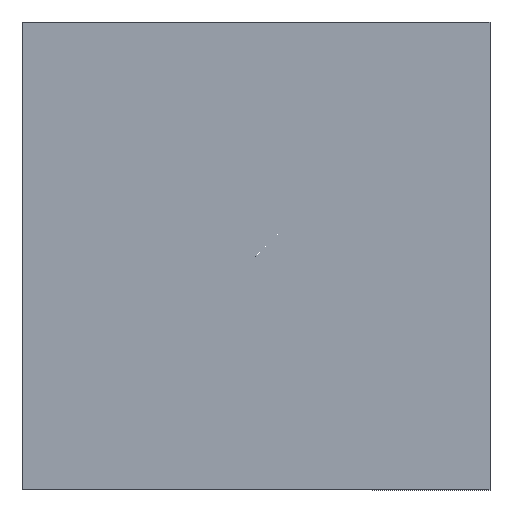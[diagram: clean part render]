
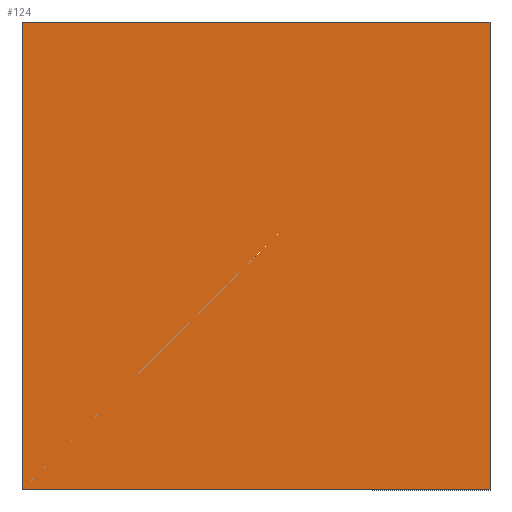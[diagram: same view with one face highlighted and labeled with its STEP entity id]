
A CAD part, front view. The second image highlights one B-rep face of the part: STEP entity #124.
In plain terms, the highlighted planar face has unit normal (0, -1, 0).
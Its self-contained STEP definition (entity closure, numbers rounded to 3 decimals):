
#3 = VECTOR ( 'NONE', #467, 1000. ) ;
#13 = AXIS2_PLACEMENT_3D ( 'NONE', #154, #525, #589 ) ;
#52 = VECTOR ( 'NONE', #487, 1000. ) ;
#58 = PLANE ( 'NONE',  #13 ) ;
#67 = EDGE_CURVE ( 'NONE', #559, #462, #249, .T. ) ;
#110 = LINE ( 'NONE', #324, #52 ) ;
#123 = VECTOR ( 'NONE', #133, 1000. ) ;
#124 = ADVANCED_FACE ( 'NONE', ( #475 ), #58, .T. ) ;
#133 = DIRECTION ( 'NONE',  ( -1., 0., 0. ) ) ;
#154 = CARTESIAN_POINT ( 'NONE',  ( 0., 0., 900. ) ) ;
#200 = LINE ( 'NONE', #322, #585 ) ;
#245 = ORIENTED_EDGE ( 'NONE', *, *, #323, .F. ) ;
#249 = LINE ( 'NONE', #519, #123 ) ;
#263 = EDGE_CURVE ( 'NONE', #462, #438, #200, .T. ) ;
#265 = CARTESIAN_POINT ( 'NONE',  ( 0., 0., 0. ) ) ;
#322 = CARTESIAN_POINT ( 'NONE',  ( -900., 0., 900. ) ) ;
#323 = EDGE_CURVE ( 'NONE', #559, #604, #110, .T. ) ;
#324 = CARTESIAN_POINT ( 'NONE',  ( 0., 0., 900. ) ) ;
#389 = ORIENTED_EDGE ( 'NONE', *, *, #67, .T. ) ;
#404 = CARTESIAN_POINT ( 'NONE',  ( 0., 0., 0. ) ) ;
#408 = CARTESIAN_POINT ( 'NONE',  ( 0., 0., 900. ) ) ;
#438 = VERTEX_POINT ( 'NONE', #512 ) ;
#462 = VERTEX_POINT ( 'NONE', #569 ) ;
#467 = DIRECTION ( 'NONE',  ( -1., 0., 0. ) ) ;
#475 = FACE_OUTER_BOUND ( 'NONE', #503, .T. ) ;
#487 = DIRECTION ( 'NONE',  ( 0., 0., -1. ) ) ;
#498 = EDGE_CURVE ( 'NONE', #604, #438, #626, .T. ) ;
#503 = EDGE_LOOP ( 'NONE', ( #612, #245, #389, #508 ) ) ;
#508 = ORIENTED_EDGE ( 'NONE', *, *, #263, .T. ) ;
#512 = CARTESIAN_POINT ( 'NONE',  ( -900., 0., 0. ) ) ;
#519 = CARTESIAN_POINT ( 'NONE',  ( 0., 0., 900. ) ) ;
#525 = DIRECTION ( 'NONE',  ( 0., -1., 0. ) ) ;
#531 = DIRECTION ( 'NONE',  ( 0., 0., -1. ) ) ;
#559 = VERTEX_POINT ( 'NONE', #408 ) ;
#569 = CARTESIAN_POINT ( 'NONE',  ( -900., 0., 900. ) ) ;
#585 = VECTOR ( 'NONE', #531, 1000. ) ;
#589 = DIRECTION ( 'NONE',  ( 1., 0., 0. ) ) ;
#604 = VERTEX_POINT ( 'NONE', #265 ) ;
#612 = ORIENTED_EDGE ( 'NONE', *, *, #498, .F. ) ;
#626 = LINE ( 'NONE', #404, #3 ) ;
